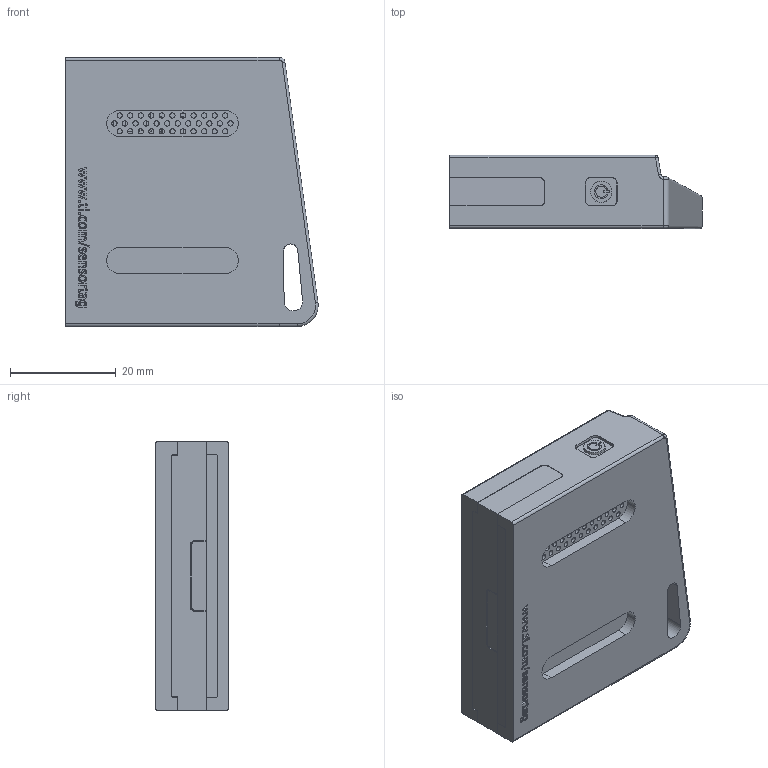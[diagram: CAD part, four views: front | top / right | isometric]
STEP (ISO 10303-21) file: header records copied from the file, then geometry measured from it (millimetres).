
FILE_DESCRIPTION (( 'STEP AP203' ), '1' );
FILE_NAME ('201506221616_26xx sensortag.STEP', '2015-06-22T14:17:28', ( 'Inventas' ), ( 'HP' ), 'SwSTEP 2.0', 'SolidWorks 2014', '' );
FILE_SCHEMA (( 'CONFIG_CONTROL_DESIGN' ));
Length unit declared in the file: millimetre
Products named in the file (10): 26xx lid; battery_CR2032; 131106_CC2650_SensorTag_korrigert; battery holder_LINX_BAT-HLD-001; LSS-110-01-X-DV-A; PCB_26xx; 26xx-WiFi jacket; 201506221616_26xx sensortag; 26xx-WiFi DevPack; 26xx box
Assembly tree (9 placements, depth 3):
  201506221616_26xx sensortag
    26xx-WiFi jacket
    26xx-WiFi DevPack
    26xx box
    26xx lid
    battery_CR2032
    PCB_26xx
      131106_CC2650_SensorTag_korrigert
      battery holder_LINX_BAT-HLD-001
      LSS-110-01-X-DV-A
Bounding box: 47.81 x 13.85 x 51 mm (x, y, z)
Volume: 21343.3 mm3; surface area: 30215.3 mm2
Topology: 98 solids, 98 shells, 3495 faces, 9570 edges, 6299 vertices
Faces by surface type: plane 2610, cylinder 642, bspline 186, cone 37, torus 14, sphere 6
Entity records: 117965 total; most frequent: CARTESIAN_POINT 28550, ORIENTED_EDGE 19112, DIRECTION 17030, EDGE_CURVE 9556, VECTOR 7736, LINE 7736, VERTEX_POINT 6299, AXIS2_PLACEMENT_3D 4647
